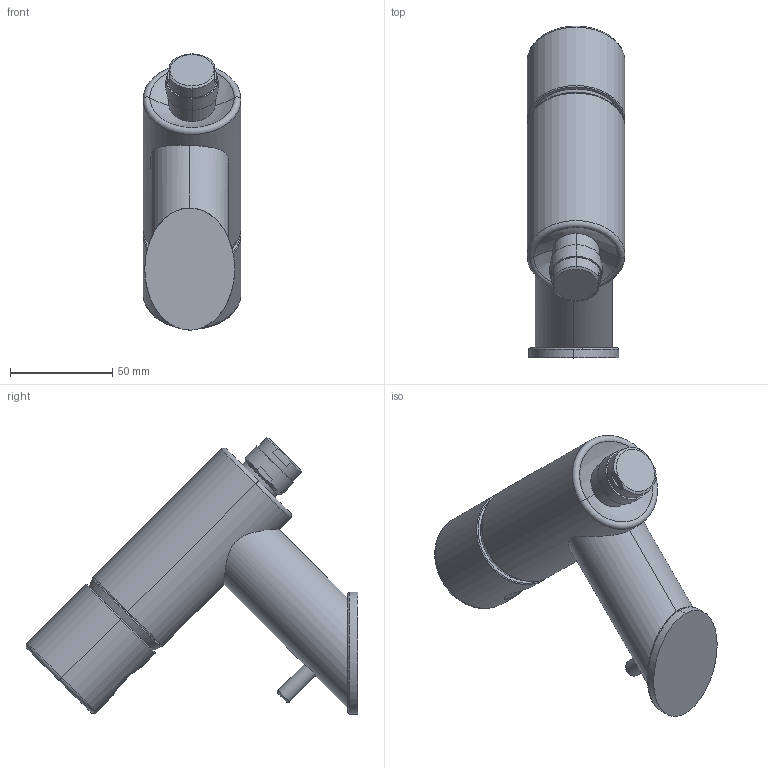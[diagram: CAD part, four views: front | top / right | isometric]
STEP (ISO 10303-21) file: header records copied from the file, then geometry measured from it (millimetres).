
FILE_DESCRIPTION (( 'STEP AP203' ), '1' );
FILE_NAME ('8518.STEP', '2017-12-21T11:21:07', ( '' ), ( '' ), 'SwSTEP 2.0', 'SolidWorks 2016', '' );
FILE_SCHEMA (( 'CONFIG_CONTROL_DESIGN' ));
Length unit declared in the file: millimetre
Products named in the file (1): 8518
Bounding box: 48 x 162.63 x 135.31 mm (x, y, z)
Volume: 343717.4 mm3; surface area: 37749.3 mm2
Topology: 1 solids, 1 shells, 58 faces, 134 edges, 84 vertices
Faces by surface type: plane 17, cylinder 16, torus 12, bspline 6, cone 4, sphere 3
Entity records: 2889 total; most frequent: CARTESIAN_POINT 1534, DIRECTION 273, ORIENTED_EDGE 264, EDGE_CURVE 132, AXIS2_PLACEMENT_3D 119, VERTEX_POINT 83, CIRCLE 66, EDGE_LOOP 65
